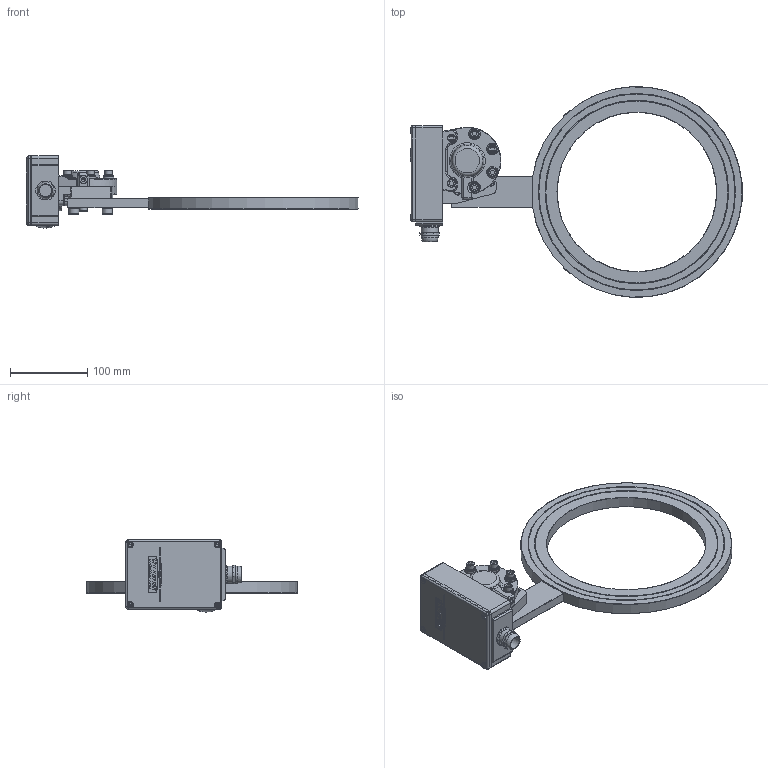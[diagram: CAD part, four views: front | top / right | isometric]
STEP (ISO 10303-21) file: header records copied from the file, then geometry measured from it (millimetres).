
FILE_DESCRIPTION(/* description */ ('Alibre Inc.'),/* implementation_level */ '2;1');
FILE_NAME(/* name */ 'export0',/* time_stamp */ '2012-10-19T13:18:37+02:00',/* author */ (''),/* organization */ (''),/* preprocessor_version */ 'ST-DEVELOPER v14',/* originating_system */ 'Alibre',/* authorisation */ '');
FILE_SCHEMA (('CONFIG_CONTROL_DESIGN'));
Length unit declared in the file: centimetre
Products named in the file (12): ID_1; ID_2; ID_3; ID_4; ID_5; ID_6; ID_7; ID_8; ID_9
Bounding box: 431.12 x 273.6 x 93.66 mm (x, y, z)
Volume: 694258.4 mm3; surface area: 230331.6 mm2
Topology: 21 solids, 21 shells, 1085 faces, 2568 edges, 1593 vertices
Faces by surface type: plane 538, cylinder 231, bspline 162, cone 76, torus 70, sphere 8
Full cylindrical faces by diameter (mm): 3.9 x2, 5 x22, 5.5 x1, 5.541 x2, 6 x14, 6.038 x2, 6.5 x6, 8 x9, 8.5 x2, 9.6 x6, 10 x11, 10.5 x1, 12 x3, 13 x2, 14 x3, 16 x1, 17.966 x1, 19.5 x1, 22 x2, 22.5 x4, 29 x1, 31 x1, 207 x1, 237 x2, 238 x2, 255 x2, 256 x2
Entity records: 34338 total; most frequent: CARTESIAN_POINT 14030, ORIENTED_EDGE 3988, DIRECTION 3168, EDGE_CURVE 1994, VERTEX_POINT 1333, AXIS2_PLACEMENT_3D 1279, EDGE_LOOP 1159, FACE_BOUND 1159
